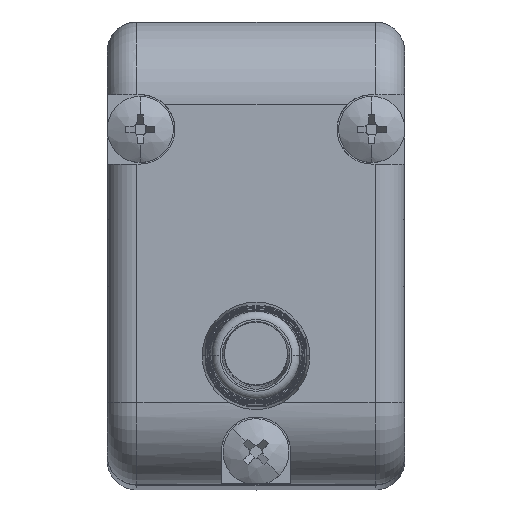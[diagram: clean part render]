
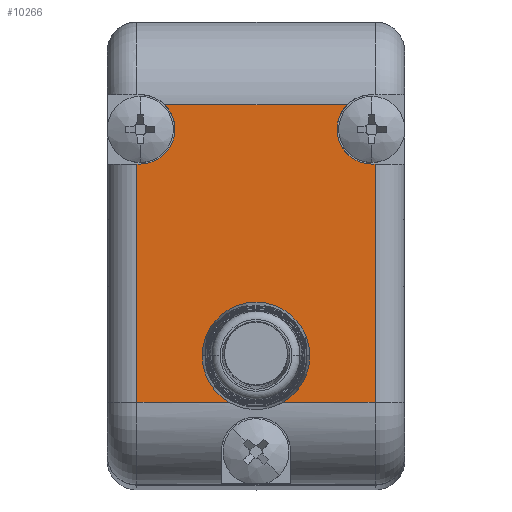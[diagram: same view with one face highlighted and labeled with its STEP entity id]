
A CAD part, top view. The second image highlights one B-rep face of the part: STEP entity #10266.
In plain terms, the highlighted planar face has unit normal (0, 0, 1).
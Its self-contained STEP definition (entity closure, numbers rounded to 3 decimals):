
#286 = VERTEX_POINT ( 'NONE', #21805 ) ;
#620 = AXIS2_PLACEMENT_3D ( 'NONE', #18761, #14907, #19155 ) ;
#1471 = ORIENTED_EDGE ( 'NONE', *, *, #3871, .T. ) ;
#1659 = CARTESIAN_POINT ( 'NONE',  ( 7.35, -9., 0. ) ) ;
#1813 = CARTESIAN_POINT ( 'NONE',  ( 9., -6.2, 0. ) ) ;
#1938 = AXIS2_PLACEMENT_3D ( 'NONE', #1813, #8182, #18284 ) ;
#2175 = AXIS2_PLACEMENT_3D ( 'NONE', #9193, #17902, #11189 ) ;
#2263 = ORIENTED_EDGE ( 'NONE', *, *, #17567, .F. ) ;
#2489 = DIRECTION ( 'NONE',  ( 0., 0., 1. ) ) ;
#2492 = LINE ( 'NONE', #14987, #3167 ) ;
#2784 = ORIENTED_EDGE ( 'NONE', *, *, #3762, .F. ) ;
#2984 = CARTESIAN_POINT ( 'NONE',  ( 1.8, -9., 0. ) ) ;
#3143 = VECTOR ( 'NONE', #13447, 1000. ) ;
#3167 = VECTOR ( 'NONE', #22696, 1000. ) ;
#3325 = CARTESIAN_POINT ( 'NONE',  ( 2., 7.5, 0. ) ) ;
#3762 = EDGE_CURVE ( 'NONE', #16005, #9035, #8237, .T. ) ;
#3871 = EDGE_CURVE ( 'NONE', #286, #10050, #11193, .T. ) ;
#3975 = CIRCLE ( 'NONE', #24351, 3.25 ) ;
#4024 = VERTEX_POINT ( 'NONE', #17407 ) ;
#4634 = ORIENTED_EDGE ( 'NONE', *, *, #16578, .T. ) ;
#4724 = LINE ( 'NONE', #2984, #11581 ) ;
#4936 = LINE ( 'NONE', #17013, #5595 ) ;
#5595 = VECTOR ( 'NONE', #7456, 1000. ) ;
#6512 = EDGE_CURVE ( 'NONE', #4024, #7030, #25931, .T. ) ;
#6525 = VERTEX_POINT ( 'NONE', #18051 ) ;
#6775 = CARTESIAN_POINT ( 'NONE',  ( 1.8, 5.4, 0. ) ) ;
#6776 = DIRECTION ( 'NONE',  ( 1., 0., 0. ) ) ;
#7012 = AXIS2_PLACEMENT_3D ( 'NONE', #8608, #21090, #25062 ) ;
#7030 = VERTEX_POINT ( 'NONE', #12190 ) ;
#7047 = DIRECTION ( 'NONE',  ( 0., 0., 1. ) ) ;
#7160 = EDGE_CURVE ( 'NONE', #18375, #13165, #4936, .T. ) ;
#7241 = EDGE_CURVE ( 'NONE', #13165, #4024, #7297, .T. ) ;
#7297 = CIRCLE ( 'NONE', #20885, 2.1 ) ;
#7456 = DIRECTION ( 'NONE',  ( 1., 0., 0. ) ) ;
#7613 = LINE ( 'NONE', #25197, #12539 ) ;
#8172 = CARTESIAN_POINT ( 'NONE',  ( 2., 5.4, 0. ) ) ;
#8182 = DIRECTION ( 'NONE',  ( 0., 0., 1. ) ) ;
#8237 = CIRCLE ( 'NONE', #620, 3.25 ) ;
#8343 = CARTESIAN_POINT ( 'NONE',  ( 16., 7.5, 0. ) ) ;
#8481 = VERTEX_POINT ( 'NONE', #25605 ) ;
#8608 = CARTESIAN_POINT ( 'NONE',  ( 18., -14., 0. ) ) ;
#9035 = VERTEX_POINT ( 'NONE', #9668 ) ;
#9193 = CARTESIAN_POINT ( 'NONE',  ( 2., 7.5, 0. ) ) ;
#9426 = CARTESIAN_POINT ( 'NONE',  ( 16.2, -9., 0. ) ) ;
#9668 = CARTESIAN_POINT ( 'NONE',  ( 5.75, -6.2, 0. ) ) ;
#9897 = DIRECTION ( 'NONE',  ( 1., 0., 0. ) ) ;
#10050 = VERTEX_POINT ( 'NONE', #1659 ) ;
#10266 = ADVANCED_FACE ( 'NONE', ( #23220 ), #20835, .F. ) ;
#10805 = LINE ( 'NONE', #18912, #16321 ) ;
#11189 = DIRECTION ( 'NONE',  ( 1., 0., 0. ) ) ;
#11193 = LINE ( 'NONE', #15307, #3143 ) ;
#11466 = DIRECTION ( 'NONE',  ( 1., 0., 0. ) ) ;
#11581 = VECTOR ( 'NONE', #21082, 1000. ) ;
#12029 = EDGE_LOOP ( 'NONE', ( #1471, #17261, #2784, #13250, #18072, #22600, #25551, #2263, #25163, #13760, #18271, #18468, #4634 ) ) ;
#12061 = EDGE_CURVE ( 'NONE', #9035, #10050, #3975, .T. ) ;
#12115 = VERTEX_POINT ( 'NONE', #23143 ) ;
#12190 = CARTESIAN_POINT ( 'NONE',  ( 3.47, 9., 0. ) ) ;
#12539 = VECTOR ( 'NONE', #9897, 1000. ) ;
#13165 = VERTEX_POINT ( 'NONE', #8172 ) ;
#13250 = ORIENTED_EDGE ( 'NONE', *, *, #21213, .F. ) ;
#13447 = DIRECTION ( 'NONE',  ( 1., 0., 0. ) ) ;
#13760 = ORIENTED_EDGE ( 'NONE', *, *, #6512, .F. ) ;
#14450 = EDGE_CURVE ( 'NONE', #18945, #6525, #2492, .T. ) ;
#14618 = EDGE_CURVE ( 'NONE', #12115, #15421, #7613, .T. ) ;
#14736 = LINE ( 'NONE', #16716, #24116 ) ;
#14907 = DIRECTION ( 'NONE',  ( 0., 0., 1. ) ) ;
#14987 = CARTESIAN_POINT ( 'NONE',  ( 16., 5.4, 0. ) ) ;
#15307 = CARTESIAN_POINT ( 'NONE',  ( 18., -9., 0. ) ) ;
#15421 = VERTEX_POINT ( 'NONE', #9426 ) ;
#16005 = VERTEX_POINT ( 'NONE', #19323 ) ;
#16321 = VECTOR ( 'NONE', #17676, 1000. ) ;
#16578 = EDGE_CURVE ( 'NONE', #18375, #286, #4724, .T. ) ;
#16716 = CARTESIAN_POINT ( 'NONE',  ( 16.2, 9., 0. ) ) ;
#16840 = DIRECTION ( 'NONE',  ( 0., 1., 0. ) ) ;
#17013 = CARTESIAN_POINT ( 'NONE',  ( 2., 5.4, 0. ) ) ;
#17261 = ORIENTED_EDGE ( 'NONE', *, *, #12061, .F. ) ;
#17407 = CARTESIAN_POINT ( 'NONE',  ( 4.1, 7.5, 0. ) ) ;
#17567 = EDGE_CURVE ( 'NONE', #8481, #18945, #18821, .T. ) ;
#17676 = DIRECTION ( 'NONE',  ( -1., 0., 0. ) ) ;
#17902 = DIRECTION ( 'NONE',  ( 0., 0., 1. ) ) ;
#18051 = CARTESIAN_POINT ( 'NONE',  ( 16.2, 5.4, 0. ) ) ;
#18072 = ORIENTED_EDGE ( 'NONE', *, *, #14618, .T. ) ;
#18271 = ORIENTED_EDGE ( 'NONE', *, *, #7241, .F. ) ;
#18284 = DIRECTION ( 'NONE',  ( 1., 0., 0. ) ) ;
#18375 = VERTEX_POINT ( 'NONE', #6775 ) ;
#18468 = ORIENTED_EDGE ( 'NONE', *, *, #7160, .F. ) ;
#18502 = EDGE_CURVE ( 'NONE', #8481, #7030, #10805, .T. ) ;
#18761 = CARTESIAN_POINT ( 'NONE',  ( 9., -6.2, 0. ) ) ;
#18821 = CIRCLE ( 'NONE', #21362, 2.1 ) ;
#18912 = CARTESIAN_POINT ( 'NONE',  ( 0., 9., 0. ) ) ;
#18945 = VERTEX_POINT ( 'NONE', #25970 ) ;
#19155 = DIRECTION ( 'NONE',  ( 1., 0., 0. ) ) ;
#19323 = CARTESIAN_POINT ( 'NONE',  ( 12.25, -6.2, 0. ) ) ;
#20835 = PLANE ( 'NONE',  #7012 ) ;
#20885 = AXIS2_PLACEMENT_3D ( 'NONE', #3325, #21152, #11466 ) ;
#21082 = DIRECTION ( 'NONE',  ( 0., -1., 0. ) ) ;
#21090 = DIRECTION ( 'NONE',  ( 0., 0., -1. ) ) ;
#21152 = DIRECTION ( 'NONE',  ( 0., 0., 1. ) ) ;
#21213 = EDGE_CURVE ( 'NONE', #12115, #16005, #24841, .T. ) ;
#21362 = AXIS2_PLACEMENT_3D ( 'NONE', #8343, #2489, #26267 ) ;
#21805 = CARTESIAN_POINT ( 'NONE',  ( 1.8, -9., 0. ) ) ;
#22600 = ORIENTED_EDGE ( 'NONE', *, *, #24528, .T. ) ;
#22696 = DIRECTION ( 'NONE',  ( 1., 0., 0. ) ) ;
#23143 = CARTESIAN_POINT ( 'NONE',  ( 10.65, -9., 0. ) ) ;
#23220 = FACE_OUTER_BOUND ( 'NONE', #12029, .T. ) ;
#24116 = VECTOR ( 'NONE', #16840, 1000. ) ;
#24351 = AXIS2_PLACEMENT_3D ( 'NONE', #24996, #7047, #6776 ) ;
#24528 = EDGE_CURVE ( 'NONE', #15421, #6525, #14736, .T. ) ;
#24841 = CIRCLE ( 'NONE', #1938, 3.25 ) ;
#24996 = CARTESIAN_POINT ( 'NONE',  ( 9., -6.2, 0. ) ) ;
#25062 = DIRECTION ( 'NONE',  ( -1., 0., 0. ) ) ;
#25163 = ORIENTED_EDGE ( 'NONE', *, *, #18502, .T. ) ;
#25197 = CARTESIAN_POINT ( 'NONE',  ( 18., -9., 0. ) ) ;
#25551 = ORIENTED_EDGE ( 'NONE', *, *, #14450, .F. ) ;
#25605 = CARTESIAN_POINT ( 'NONE',  ( 14.53, 9., 0. ) ) ;
#25931 = CIRCLE ( 'NONE', #2175, 2.1 ) ;
#25970 = CARTESIAN_POINT ( 'NONE',  ( 16., 5.4, 0. ) ) ;
#26267 = DIRECTION ( 'NONE',  ( 1., 0., 0. ) ) ;
